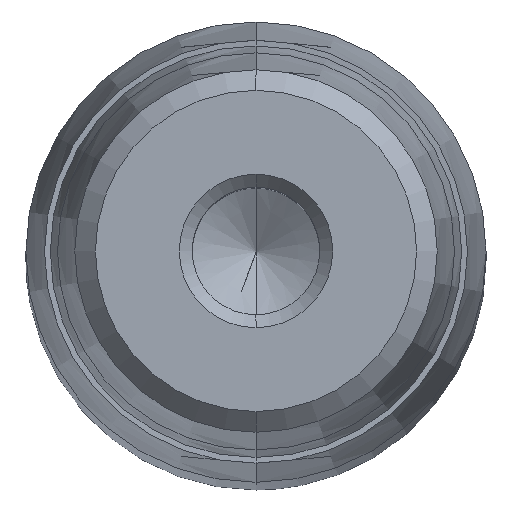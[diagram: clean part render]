
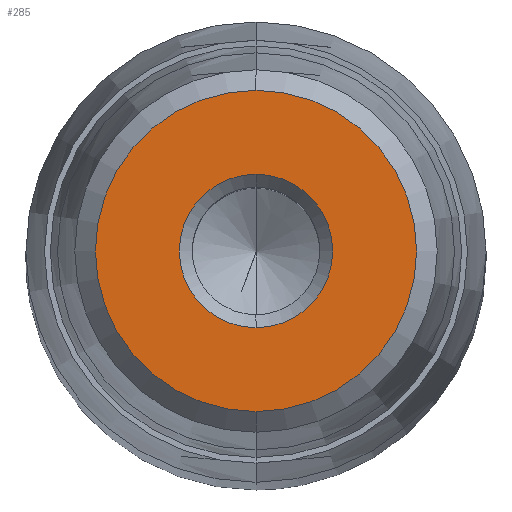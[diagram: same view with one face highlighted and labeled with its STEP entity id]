
A CAD part, top view. The second image highlights one B-rep face of the part: STEP entity #285.
In plain terms, the highlighted planar face has unit normal (0, 0, 1).
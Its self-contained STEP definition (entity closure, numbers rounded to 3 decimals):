
#164=CARTESIAN_POINT('Axis2P3D Location',(0.,0.,35.)) ;
#168=CARTESIAN_POINT('Vertex',(4.,0.,35.)) ;
#170=CARTESIAN_POINT('Vertex',(0.,-4.,35.)) ;
#173=CARTESIAN_POINT('Axis2P3D Location',(0.,0.,35.)) ;
#177=CARTESIAN_POINT('Vertex',(0.,4.,35.)) ;
#228=CARTESIAN_POINT('Axis2P3D Location',(0.,4.,35.)) ;
#233=CARTESIAN_POINT('Axis2P3D Location',(0.,0.,35.)) ;
#237=CARTESIAN_POINT('Vertex',(0.,8.375,35.)) ;
#239=CARTESIAN_POINT('Vertex',(8.375,0.,35.)) ;
#242=CARTESIAN_POINT('Axis2P3D Location',(0.,0.,35.)) ;
#246=CARTESIAN_POINT('Vertex',(-8.375,0.,35.)) ;
#249=CARTESIAN_POINT('Axis2P3D Location',(0.,0.,35.)) ;
#253=CARTESIAN_POINT('Vertex',(0.,-8.375,35.)) ;
#256=CARTESIAN_POINT('Axis2P3D Location',(0.,0.,35.)) ;
#267=CARTESIAN_POINT('Axis2P3D Location',(0.,0.,35.)) ;
#271=CARTESIAN_POINT('Vertex',(-4.,0.,35.)) ;
#274=CARTESIAN_POINT('Axis2P3D Location',(0.,0.,35.)) ;
#165=DIRECTION('Axis2P3D Direction',(-0.,0.,1.)) ;
#174=DIRECTION('Axis2P3D Direction',(-0.,0.,1.)) ;
#229=DIRECTION('Axis2P3D Direction',(0.,0.,-1.)) ;
#230=DIRECTION('Axis2P3D XDirection',(0.,1.,0.)) ;
#234=DIRECTION('Axis2P3D Direction',(0.,0.,-1.)) ;
#243=DIRECTION('Axis2P3D Direction',(0.,0.,-1.)) ;
#250=DIRECTION('Axis2P3D Direction',(0.,0.,-1.)) ;
#257=DIRECTION('Axis2P3D Direction',(0.,0.,-1.)) ;
#268=DIRECTION('Axis2P3D Direction',(0.,0.,-1.)) ;
#275=DIRECTION('Axis2P3D Direction',(0.,0.,-1.)) ;
#166=AXIS2_PLACEMENT_3D('Circle Axis2P3D',#164,#165,$) ;
#175=AXIS2_PLACEMENT_3D('Circle Axis2P3D',#173,#174,$) ;
#231=AXIS2_PLACEMENT_3D('Plane Axis2P3D',#228,#229,#230) ;
#235=AXIS2_PLACEMENT_3D('Circle Axis2P3D',#233,#234,$) ;
#244=AXIS2_PLACEMENT_3D('Circle Axis2P3D',#242,#243,$) ;
#251=AXIS2_PLACEMENT_3D('Circle Axis2P3D',#249,#250,$) ;
#258=AXIS2_PLACEMENT_3D('Circle Axis2P3D',#256,#257,$) ;
#269=AXIS2_PLACEMENT_3D('Circle Axis2P3D',#267,#268,$) ;
#276=AXIS2_PLACEMENT_3D('Circle Axis2P3D',#274,#275,$) ;
#262=ORIENTED_EDGE('',*,*,#241,.F.) ;
#263=ORIENTED_EDGE('',*,*,#248,.F.) ;
#264=ORIENTED_EDGE('',*,*,#255,.F.) ;
#265=ORIENTED_EDGE('',*,*,#260,.F.) ;
#280=ORIENTED_EDGE('',*,*,#172,.T.) ;
#281=ORIENTED_EDGE('',*,*,#273,.T.) ;
#282=ORIENTED_EDGE('',*,*,#278,.T.) ;
#283=ORIENTED_EDGE('',*,*,#179,.T.) ;
#284=FACE_BOUND('',#279,.T.) ;
#285=ADVANCED_FACE('722-24x250x273',(#266,#284),#232,.F.) ;
#167=CIRCLE('generated circle',#166,4.) ;
#176=CIRCLE('generated circle',#175,4.) ;
#236=CIRCLE('generated circle',#235,8.375) ;
#245=CIRCLE('generated circle',#244,8.375) ;
#252=CIRCLE('generated circle',#251,8.375) ;
#259=CIRCLE('generated circle',#258,8.375) ;
#270=CIRCLE('generated circle',#269,4.) ;
#277=CIRCLE('generated circle',#276,4.) ;
#172=EDGE_CURVE('',#169,#171,#167,.F.) ;
#179=EDGE_CURVE('',#178,#169,#176,.F.) ;
#241=EDGE_CURVE('',#238,#240,#236,.T.) ;
#248=EDGE_CURVE('',#247,#238,#245,.T.) ;
#255=EDGE_CURVE('',#254,#247,#252,.T.) ;
#260=EDGE_CURVE('',#240,#254,#259,.T.) ;
#273=EDGE_CURVE('',#171,#272,#270,.T.) ;
#278=EDGE_CURVE('',#272,#178,#277,.T.) ;
#261=EDGE_LOOP('',(#262,#263,#264,#265)) ;
#279=EDGE_LOOP('',(#280,#281,#282,#283)) ;
#266=FACE_OUTER_BOUND('',#261,.T.) ;
#232=PLANE('Plane',#231) ;
#169=VERTEX_POINT('',#168) ;
#171=VERTEX_POINT('',#170) ;
#178=VERTEX_POINT('',#177) ;
#238=VERTEX_POINT('',#237) ;
#240=VERTEX_POINT('',#239) ;
#247=VERTEX_POINT('',#246) ;
#254=VERTEX_POINT('',#253) ;
#272=VERTEX_POINT('',#271) ;
